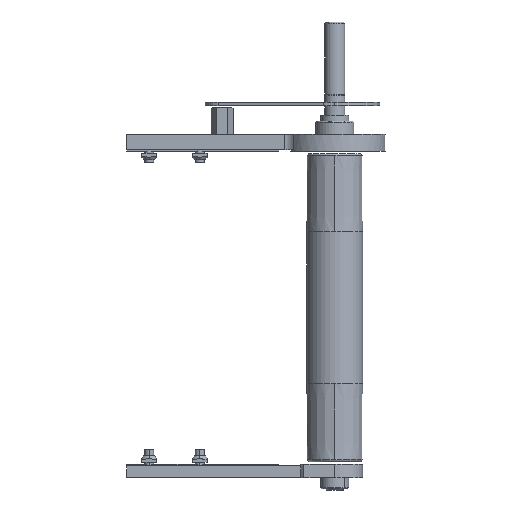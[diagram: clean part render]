
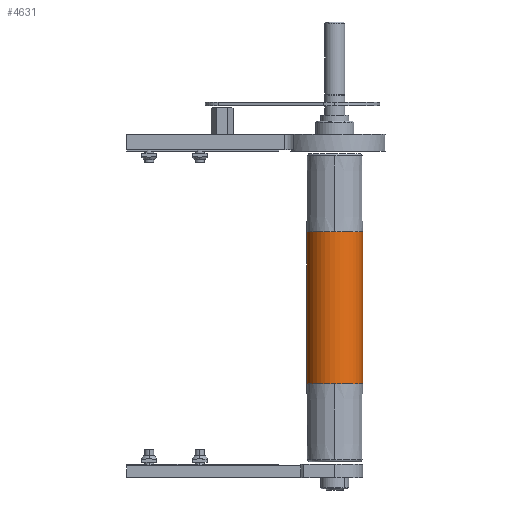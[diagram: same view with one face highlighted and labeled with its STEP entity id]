
A CAD part, front view. The second image highlights one B-rep face of the part: STEP entity #4631.
In plain terms, the highlighted cylindrical face has radius 25 mm (diameter 50 mm), a partial arc.
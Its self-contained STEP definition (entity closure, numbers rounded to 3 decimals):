
#27 = ORIENTED_EDGE ( 'NONE', *, *, #1844, .F. ) ;
#295 = DIRECTION ( 'NONE',  ( 0., 0., -1. ) ) ;
#436 = ORIENTED_EDGE ( 'NONE', *, *, #2769, .F. ) ;
#590 = CIRCLE ( 'NONE', #1730, 25. ) ;
#1141 = CYLINDRICAL_SURFACE ( 'NONE', #8470, 25. ) ;
#1274 = CARTESIAN_POINT ( 'NONE',  ( 0., 0., 135. ) ) ;
#1284 = CARTESIAN_POINT ( 'NONE',  ( 25., 0., 135. ) ) ;
#1360 = AXIS2_PLACEMENT_3D ( 'NONE', #5008, #9935, #5050 ) ;
#1693 = EDGE_CURVE ( 'NONE', #4913, #3406, #9862, .T. ) ;
#1730 = AXIS2_PLACEMENT_3D ( 'NONE', #2210, #5440, #10539 ) ;
#1844 = EDGE_CURVE ( 'NONE', #10512, #4022, #7757, .T. ) ;
#2210 = CARTESIAN_POINT ( 'NONE',  ( 0., 0., -67.5 ) ) ;
#2412 = VECTOR ( 'NONE', #295, 1000. ) ;
#2537 = CIRCLE ( 'NONE', #7057, 25. ) ;
#2602 = ORIENTED_EDGE ( 'NONE', *, *, #1693, .T. ) ;
#2769 = EDGE_CURVE ( 'NONE', #6730, #10512, #6389, .T. ) ;
#2960 = DIRECTION ( 'NONE',  ( 0., 1., 0. ) ) ;
#3406 = VERTEX_POINT ( 'NONE', #5453 ) ;
#3693 = CARTESIAN_POINT ( 'NONE',  ( -25., 0., 135. ) ) ;
#3722 = DIRECTION ( 'NONE',  ( 0., 0., -1. ) ) ;
#4022 = VERTEX_POINT ( 'NONE', #8543 ) ;
#4214 = CIRCLE ( 'NONE', #1360, 25. ) ;
#4631 = ADVANCED_FACE ( 'NONE', ( #8448 ), #1141, .T. ) ;
#4744 = ORIENTED_EDGE ( 'NONE', *, *, #10601, .T. ) ;
#4913 = VERTEX_POINT ( 'NONE', #6979 ) ;
#4945 = DIRECTION ( 'NONE',  ( 0., 0., -1. ) ) ;
#5008 = CARTESIAN_POINT ( 'NONE',  ( 0., 0., 67.5 ) ) ;
#5050 = DIRECTION ( 'NONE',  ( 0., 1., 0. ) ) ;
#5440 = DIRECTION ( 'NONE',  ( 0., 0., -1. ) ) ;
#5453 = CARTESIAN_POINT ( 'NONE',  ( -25., 0., -67.5 ) ) ;
#5708 = AXIS2_PLACEMENT_3D ( 'NONE', #9677, #7115, #2960 ) ;
#5717 = VECTOR ( 'NONE', #7112, 1000. ) ;
#5948 = CARTESIAN_POINT ( 'NONE',  ( 25., 0., -67.5 ) ) ;
#6389 = LINE ( 'NONE', #1284, #5717 ) ;
#6423 = ORIENTED_EDGE ( 'NONE', *, *, #7087, .T. ) ;
#6585 = DIRECTION ( 'NONE',  ( 0., 1., 0. ) ) ;
#6730 = VERTEX_POINT ( 'NONE', #8309 ) ;
#6979 = CARTESIAN_POINT ( 'NONE',  ( -25., 0., 67.5 ) ) ;
#7031 = DIRECTION ( 'NONE',  ( 1., 0., 0. ) ) ;
#7057 = AXIS2_PLACEMENT_3D ( 'NONE', #9049, #4945, #6585 ) ;
#7087 = EDGE_CURVE ( 'NONE', #8276, #4913, #4214, .T. ) ;
#7112 = DIRECTION ( 'NONE',  ( 0., 0., -1. ) ) ;
#7115 = DIRECTION ( 'NONE',  ( 0., 0., -1. ) ) ;
#7133 = CARTESIAN_POINT ( 'NONE',  ( 0., -25., 67.5 ) ) ;
#7651 = ORIENTED_EDGE ( 'NONE', *, *, #9669, .F. ) ;
#7757 = CIRCLE ( 'NONE', #5708, 25. ) ;
#8276 = VERTEX_POINT ( 'NONE', #7133 ) ;
#8309 = CARTESIAN_POINT ( 'NONE',  ( 25., 0., 67.5 ) ) ;
#8447 = EDGE_LOOP ( 'NONE', ( #6423, #2602, #7651, #27, #436, #4744 ) ) ;
#8448 = FACE_OUTER_BOUND ( 'NONE', #8447, .T. ) ;
#8470 = AXIS2_PLACEMENT_3D ( 'NONE', #1274, #3722, #7031 ) ;
#8543 = CARTESIAN_POINT ( 'NONE',  ( 0., -25., -67.5 ) ) ;
#9049 = CARTESIAN_POINT ( 'NONE',  ( 0., 0., 67.5 ) ) ;
#9669 = EDGE_CURVE ( 'NONE', #4022, #3406, #590, .T. ) ;
#9677 = CARTESIAN_POINT ( 'NONE',  ( 0., 0., -67.5 ) ) ;
#9862 = LINE ( 'NONE', #3693, #2412 ) ;
#9935 = DIRECTION ( 'NONE',  ( 0., 0., -1. ) ) ;
#10512 = VERTEX_POINT ( 'NONE', #5948 ) ;
#10539 = DIRECTION ( 'NONE',  ( 0., 1., 0. ) ) ;
#10601 = EDGE_CURVE ( 'NONE', #6730, #8276, #2537, .T. ) ;
